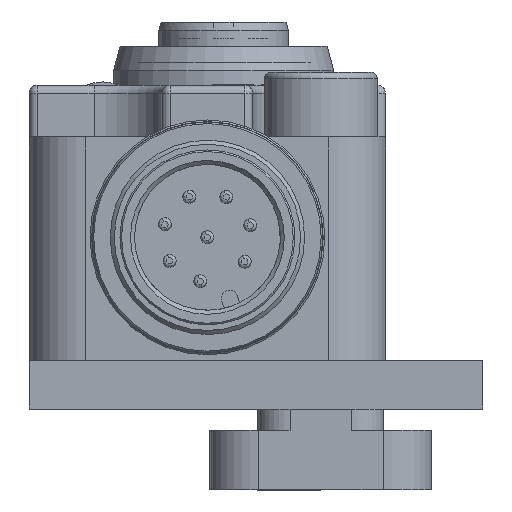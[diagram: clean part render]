
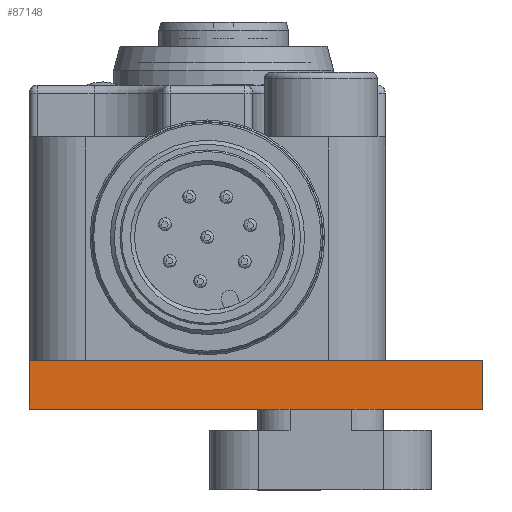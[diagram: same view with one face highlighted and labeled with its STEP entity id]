
A CAD part, front view. The second image highlights one B-rep face of the part: STEP entity #87148.
In plain terms, the highlighted planar face has unit normal (0, -1, 0) as drawn and (0, 0, 1) by its records, which use the part's own axes.
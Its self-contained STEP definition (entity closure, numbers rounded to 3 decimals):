
#87030=CARTESIAN_POINT('',(3.,14.,87.5));
#87031=VERTEX_POINT('',#87030);
#87048=CARTESIAN_POINT('',(0.0,14.,87.5));
#87049=VERTEX_POINT('',#87048);
#87056=CARTESIAN_POINT('',(0.0,14.,87.5));
#87057=DIRECTION('',(1.0,0.0,0.0));
#87058=VECTOR('',#87057,3.);
#87059=LINE('',#87056,#87058);
#87060=EDGE_CURVE('',#87049,#87031,#87059,.T.);
#87101=CARTESIAN_POINT('',(3.,-14.,87.5));
#87102=VERTEX_POINT('',#87101);
#87109=CARTESIAN_POINT('',(0.0,-14.,87.5));
#87110=VERTEX_POINT('',#87109);
#87111=CARTESIAN_POINT('',(0.0,-14.,87.5));
#87112=DIRECTION('',(1.0,0.0,0.0));
#87113=VECTOR('',#87112,3.);
#87114=LINE('',#87111,#87113);
#87115=EDGE_CURVE('',#87110,#87102,#87114,.T.);
#87127=CARTESIAN_POINT('',(0.0,-14.,87.5));
#87128=DIRECTION('',(0.0,0.0,1.0));
#87129=DIRECTION('',(1.0,0.0,0.0));
#87130=AXIS2_PLACEMENT_3D('',#87127,#87128,#87129);
#87131=PLANE('',#87130);
#87132=CARTESIAN_POINT('',(3.,-14.,87.5));
#87133=DIRECTION('',(0.0,1.0,0.0));
#87134=VECTOR('',#87133,28.);
#87135=LINE('',#87132,#87134);
#87136=EDGE_CURVE('',#87102,#87031,#87135,.T.);
#87137=ORIENTED_EDGE('',*,*,#87136,.T.);
#87138=ORIENTED_EDGE('',*,*,#87060,.F.);
#87139=CARTESIAN_POINT('',(0.0,-14.,87.5));
#87140=DIRECTION('',(0.0,1.0,0.0));
#87141=VECTOR('',#87140,28.);
#87142=LINE('',#87139,#87141);
#87143=EDGE_CURVE('',#87110,#87049,#87142,.T.);
#87144=ORIENTED_EDGE('',*,*,#87143,.F.);
#87145=ORIENTED_EDGE('',*,*,#87115,.T.);
#87146=EDGE_LOOP('',(#87137,#87138,#87144,#87145));
#87147=FACE_OUTER_BOUND('',#87146,.T.);
#87148=ADVANCED_FACE('',(#87147),#87131,.T.);
